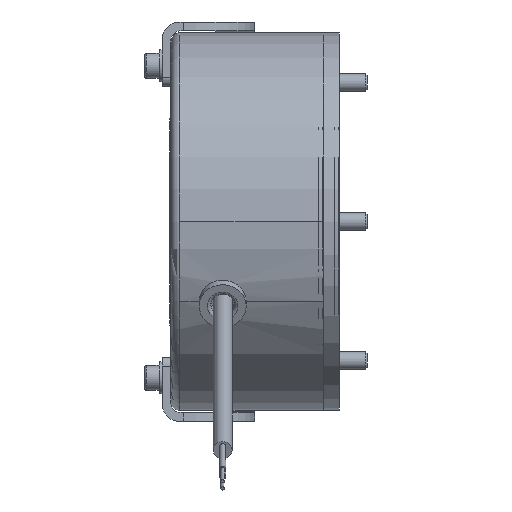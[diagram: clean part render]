
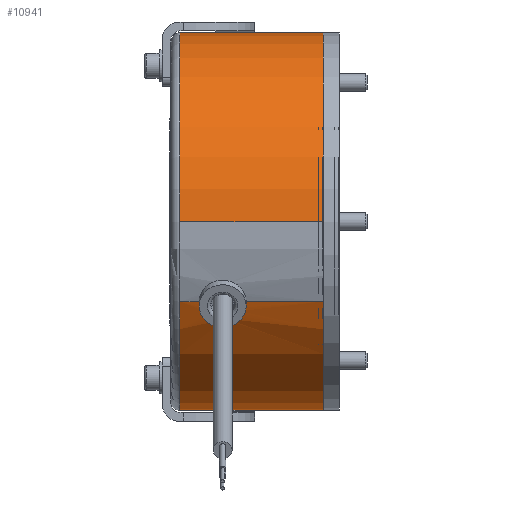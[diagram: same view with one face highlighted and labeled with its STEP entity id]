
A CAD part, front view. The second image highlights one B-rep face of the part: STEP entity #10941.
In plain terms, the highlighted cylindrical face has radius 53 mm (diameter 106 mm), a partial arc.
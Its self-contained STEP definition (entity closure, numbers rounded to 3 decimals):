
#323=B_SPLINE_CURVE_WITH_KNOTS('',3,(#18476,#18477,#18478,#18479,#18480,
#18481,#18482,#18483,#18484,#18485,#18486,#18487,#18488),.UNSPECIFIED.,
 .F.,.F.,(4,1,1,1,1,1,1,1,1,1,4),(-1.74,-1.492,-1.326,
-0.995,-0.746,-0.622,-0.497,
-0.373,-0.249,-0.124,0.),
 .UNSPECIFIED.);
#568=CYLINDRICAL_SURFACE('',#11850,53.);
#1096=CIRCLE('',#11851,53.);
#1097=CIRCLE('',#11852,53.);
#1098=CIRCLE('',#11853,53.);
#1099=CIRCLE('',#11854,53.);
#1100=CIRCLE('',#11855,53.);
#1828=FACE_OUTER_BOUND('',#2437,.T.);
#2437=EDGE_LOOP('',(#8228,#8229,#8230,#8231,#8232,#8233,#8234,#8235,#8236,
#8237,#8238));
#3132=LINE('',#18458,#3696);
#3133=LINE('',#18466,#3697);
#3134=LINE('',#18472,#3698);
#3135=LINE('',#18474,#3699);
#3136=LINE('',#18489,#3700);
#3696=VECTOR('',#14001,53.);
#3697=VECTOR('',#14008,53.);
#3698=VECTOR('',#14013,53.);
#3699=VECTOR('',#14014,10.);
#3700=VECTOR('',#14015,10.);
#4527=VERTEX_POINT('',#18456);
#4528=VERTEX_POINT('',#18457);
#4529=VERTEX_POINT('',#18459);
#4530=VERTEX_POINT('',#18461);
#4531=VERTEX_POINT('',#18463);
#4532=VERTEX_POINT('',#18465);
#4533=VERTEX_POINT('',#18467);
#4534=VERTEX_POINT('',#18469);
#4535=VERTEX_POINT('',#18471);
#4536=VERTEX_POINT('',#18473);
#4537=VERTEX_POINT('',#18475);
#5876=EDGE_CURVE('',#4527,#4528,#3132,.T.);
#5877=EDGE_CURVE('',#4529,#4527,#1096,.T.);
#5878=EDGE_CURVE('',#4530,#4529,#1097,.T.);
#5879=EDGE_CURVE('',#4531,#4530,#1098,.T.);
#5880=EDGE_CURVE('',#4532,#4531,#3133,.T.);
#5881=EDGE_CURVE('',#4533,#4532,#1099,.T.);
#5882=EDGE_CURVE('',#4534,#4533,#1100,.T.);
#5883=EDGE_CURVE('',#4535,#4534,#3134,.T.);
#5884=EDGE_CURVE('',#4536,#4535,#3135,.T.);
#5885=EDGE_CURVE('',#4537,#4536,#323,.T.);
#5886=EDGE_CURVE('',#4528,#4537,#3136,.T.);
#8228=ORIENTED_EDGE('',*,*,#5876,.F.);
#8229=ORIENTED_EDGE('',*,*,#5877,.F.);
#8230=ORIENTED_EDGE('',*,*,#5878,.F.);
#8231=ORIENTED_EDGE('',*,*,#5879,.F.);
#8232=ORIENTED_EDGE('',*,*,#5880,.F.);
#8233=ORIENTED_EDGE('',*,*,#5881,.F.);
#8234=ORIENTED_EDGE('',*,*,#5882,.F.);
#8235=ORIENTED_EDGE('',*,*,#5883,.F.);
#8236=ORIENTED_EDGE('',*,*,#5884,.F.);
#8237=ORIENTED_EDGE('',*,*,#5885,.F.);
#8238=ORIENTED_EDGE('',*,*,#5886,.F.);
#10941=ADVANCED_FACE('',(#1828),#568,.T.);
#11850=AXIS2_PLACEMENT_3D('',#18455,#13999,#14000);
#11851=AXIS2_PLACEMENT_3D('',#18460,#14002,#14003);
#11852=AXIS2_PLACEMENT_3D('',#18462,#14004,#14005);
#11853=AXIS2_PLACEMENT_3D('',#18464,#14006,#14007);
#11854=AXIS2_PLACEMENT_3D('',#18468,#14009,#14010);
#11855=AXIS2_PLACEMENT_3D('',#18470,#14011,#14012);
#13999=DIRECTION('center_axis',(1.,0.,0.));
#14000=DIRECTION('ref_axis',(0.,0.906,0.423));
#14001=DIRECTION('',(1.,0.,0.));
#14002=DIRECTION('center_axis',(-1.,0.,0.));
#14003=DIRECTION('ref_axis',(0.,-1.,0.));
#14004=DIRECTION('center_axis',(-1.,0.,0.));
#14005=DIRECTION('ref_axis',(0.,-1.,0.));
#14006=DIRECTION('center_axis',(-1.,0.,0.));
#14007=DIRECTION('ref_axis',(0.,-1.,0.));
#14008=DIRECTION('',(-1.,0.,0.));
#14009=DIRECTION('center_axis',(1.,0.,0.));
#14010=DIRECTION('ref_axis',(0.,1.,0.));
#14011=DIRECTION('center_axis',(1.,0.,0.));
#14012=DIRECTION('ref_axis',(0.,1.,0.));
#14013=DIRECTION('',(1.,0.,0.));
#14014=DIRECTION('',(1.,0.,0.));
#14015=DIRECTION('',(1.,0.,0.));
#18455=CARTESIAN_POINT('Origin',(-21.35,0.,0.));
#18456=CARTESIAN_POINT('',(-40.2,-48.034,-22.399));
#18457=CARTESIAN_POINT('',(-34.8,-48.034,-22.399));
#18458=CARTESIAN_POINT('',(-21.35,-48.034,-22.399));
#18459=CARTESIAN_POINT('',(-40.2,53.,0.));
#18460=CARTESIAN_POINT('Origin',(-40.2,0.,0.));
#18461=CARTESIAN_POINT('',(-40.2,0.,53.));
#18462=CARTESIAN_POINT('Origin',(-40.2,0.,0.));
#18463=CARTESIAN_POINT('',(-40.2,-53.,0.));
#18464=CARTESIAN_POINT('Origin',(-40.2,0.,0.));
#18465=CARTESIAN_POINT('',(0.,-53.,0.));
#18466=CARTESIAN_POINT('',(-21.35,-53.,0.));
#18467=CARTESIAN_POINT('',(0.,53.,0.));
#18468=CARTESIAN_POINT('Origin',(0.,0.,0.));
#18469=CARTESIAN_POINT('',(0.,-48.034,-22.399));
#18470=CARTESIAN_POINT('Origin',(0.,0.,0.));
#18471=CARTESIAN_POINT('',(-21.6,-48.034,-22.399));
#18472=CARTESIAN_POINT('',(-21.35,-48.034,-22.399));
#18473=CARTESIAN_POINT('',(-22.6,-48.034,-22.399));
#18474=CARTESIAN_POINT('',(-21.35,-48.034,-22.399));
#18475=CARTESIAN_POINT('',(-33.8,-48.034,-22.399));
#18476=CARTESIAN_POINT('Ctrl Pts',(-33.791,-48.031,
-22.397));
#18477=CARTESIAN_POINT('Ctrl Pts',(-33.792,-47.671,
-23.171));
#18478=CARTESIAN_POINT('Ctrl Pts',(-33.493,-47.044,-24.449));
#18479=CARTESIAN_POINT('Ctrl Pts',(-32.049,-46.01,
-26.329));
#18480=CARTESIAN_POINT('Ctrl Pts',(-29.781,-45.318,
-27.485));
#18481=CARTESIAN_POINT('Ctrl Pts',(-27.348,-45.318,
-27.483));
#18482=CARTESIAN_POINT('Ctrl Pts',(-25.71,-45.62,
-26.981));
#18483=CARTESIAN_POINT('Ctrl Pts',(-24.517,-46.019,
-26.298));
#18484=CARTESIAN_POINT('Ctrl Pts',(-23.542,-46.561,-25.329));
#18485=CARTESIAN_POINT('Ctrl Pts',(-22.911,-47.145,
-24.226));
#18486=CARTESIAN_POINT('Ctrl Pts',(-22.628,-47.68,
-23.151));
#18487=CARTESIAN_POINT('Ctrl Pts',(-22.6,-47.915,
-22.654));
#18488=CARTESIAN_POINT('Ctrl Pts',(-22.6,-48.034,
-22.399));
#18489=CARTESIAN_POINT('',(-21.35,-48.034,-22.399));
